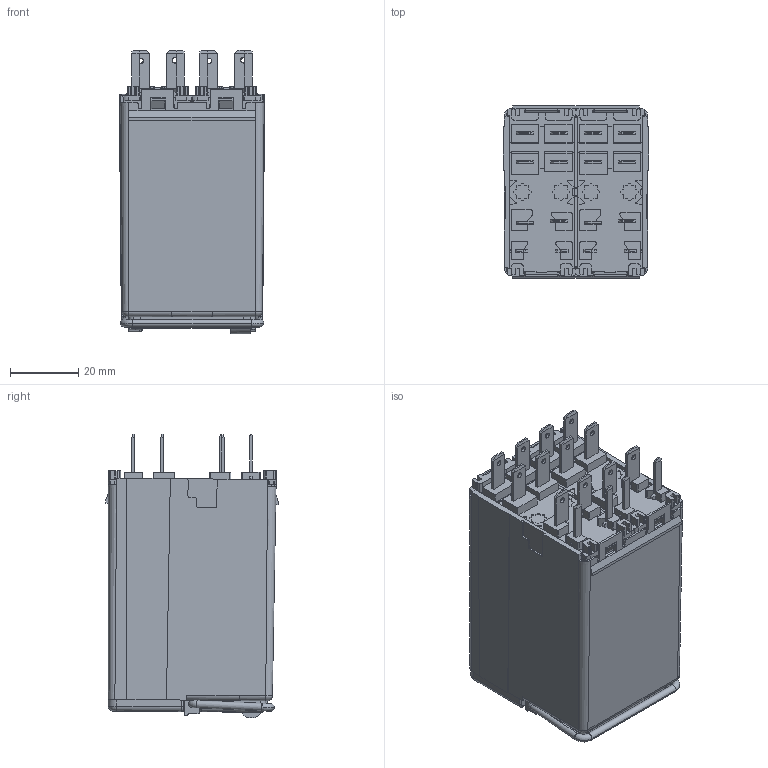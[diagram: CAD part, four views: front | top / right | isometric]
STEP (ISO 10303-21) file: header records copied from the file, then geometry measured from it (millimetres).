
FILE_DESCRIPTION (( 'STEP AP203' ), '1' );
FILE_NAME ('RELE CF4.STEP', '2014-06-17T06:06:57', ( '' ), ( '' ), 'SwSTEP 2.0', 'SolidWorks 2013', '' );
FILE_SCHEMA (( 'CONFIG_CONTROL_DESIGN' ));
Products named in the file (1): RELE CF4
Bounding box: 42.5 x 50.39 x 83.03 mm (x, y, z)
Volume: 137307.1 mm3; surface area: 24093.1 mm2
Topology: 9 solids, 9 shells, 1610 faces, 4518 edges, 2938 vertices
Faces by surface type: plane 1027, cylinder 410, bspline 134, cone 21, torus 16, sphere 2
Entity records: 56783 total; most frequent: CARTESIAN_POINT 18994, ORIENTED_EDGE 9036, DIRECTION 5936, EDGE_CURVE 4518, VERTEX_POINT 2938, VECTOR 2792, LINE 2792, EDGE_LOOP 1676
